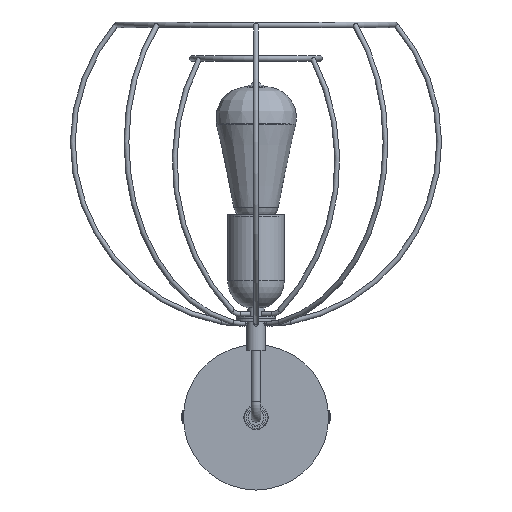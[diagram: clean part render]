
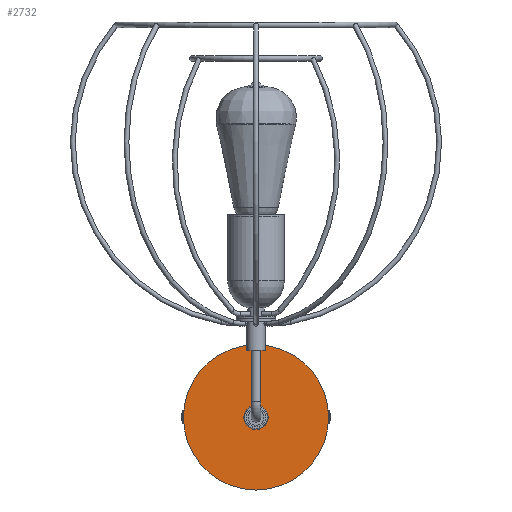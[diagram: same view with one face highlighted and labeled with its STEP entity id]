
A CAD part, left-side view. The second image highlights one B-rep face of the part: STEP entity #2732.
In plain terms, the highlighted planar face has unit normal (-1, 0, 0).
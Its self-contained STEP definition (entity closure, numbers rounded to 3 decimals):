
#274=PLANE('',#3207);
#726=FACE_OUTER_BOUND('',#933,.T.);
#933=EDGE_LOOP('',(#2460));
#1159=CIRCLE('',#3204,45.);
#1398=VERTEX_POINT('',#5496);
#1753=EDGE_CURVE('',#1398,#1398,#1159,.T.);
#2460=ORIENTED_EDGE('',*,*,#1753,.T.);
#2732=ADVANCED_FACE('',(#726),#274,.F.);
#3204=AXIS2_PLACEMENT_3D('',#5497,#4110,#4111);
#3207=AXIS2_PLACEMENT_3D('',#5502,#4117,#4118);
#4110=DIRECTION('center_axis',(-1.,0.,0.));
#4111=DIRECTION('ref_axis',(0.,1.,0.));
#4117=DIRECTION('center_axis',(1.,0.,0.));
#4118=DIRECTION('ref_axis',(0.,1.,0.));
#5496=CARTESIAN_POINT('',(155.,-45.,-56.67));
#5497=CARTESIAN_POINT('Origin',(155.,0.,-56.67));
#5502=CARTESIAN_POINT('Origin',(155.,0.,-56.67));
